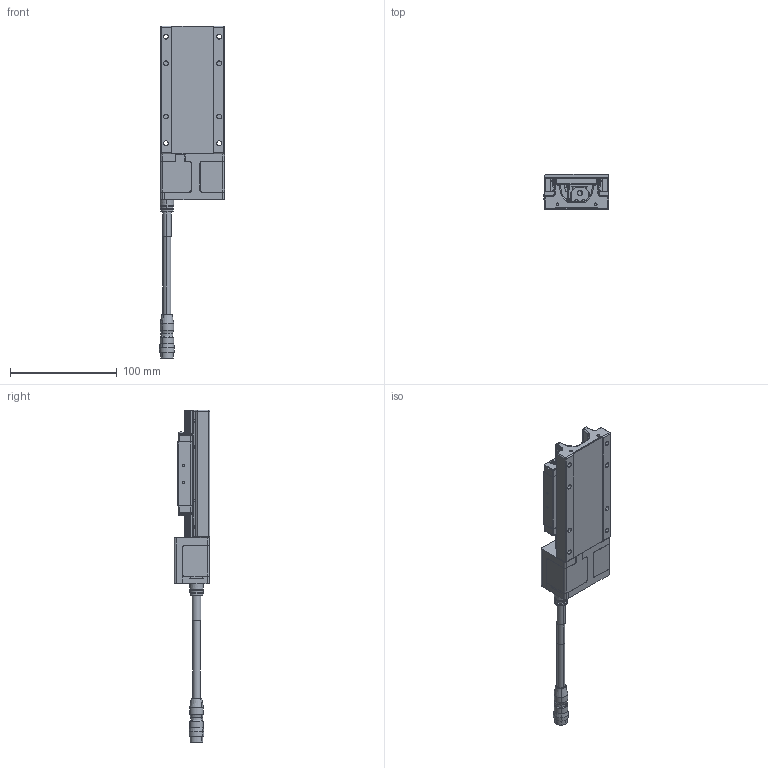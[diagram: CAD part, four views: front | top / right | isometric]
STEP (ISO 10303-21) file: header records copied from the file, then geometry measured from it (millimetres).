
FILE_DESCRIPTION (( 'STEP AP203' ), '1' );
FILE_NAME ('CXN6030-S2?N(µL°¨¹F).S', '2024-01-05T03:16:06', ( '' ), ( '' ), 'SwSTEP 2.0', 'SolidWorks 2019', '' );
FILE_SCHEMA (( 'CONFIG_CONTROL_DESIGN' ));
Products named in the file (4): CXN6030-S2?N(無馬達); HR10A-10J-12P_帶線示意; Group1^CXN6030-S2?N(28框無馬達)_defeature_GMT; Group2^CXN6030-S2?N(28框無馬達)_defeature_GMT
Assembly tree (3 placements, depth 2):
  CXN6030-S2?N(無馬達)
    Group1^CXN6030-S2?N(28框無馬達)_defeature_GMT
    Group2^CXN6030-S2?N(28框無馬達)_defeature_GMT
    HR10A-10J-12P_帶線示意
Bounding box: 61 x 33.5 x 311.52 mm (x, y, z)
Volume: 39627.4 mm3; surface area: 84504.4 mm2
Topology: 31 solids, 33 shells, 3385 faces, 8488 edges, 5094 vertices
Faces by surface type: plane 1171, cylinder 1066, cone 481, torus 286, bspline 205, sphere 176
Entity records: 107880 total; most frequent: CARTESIAN_POINT 27071, DIRECTION 17638, ORIENTED_EDGE 16562, EDGE_CURVE 8281, AXIS2_PLACEMENT_3D 6736, VERTEX_POINT 5051, LINE 4166, VECTOR 4166
